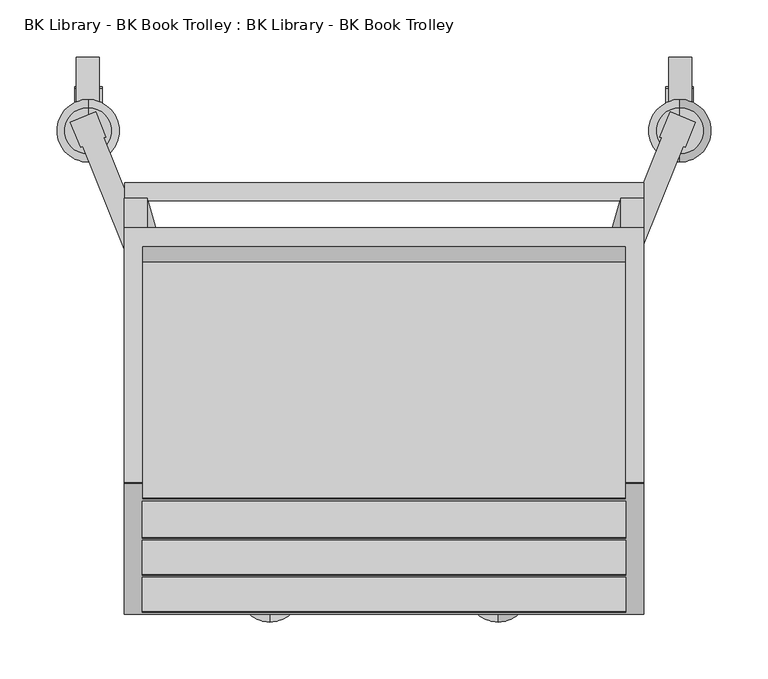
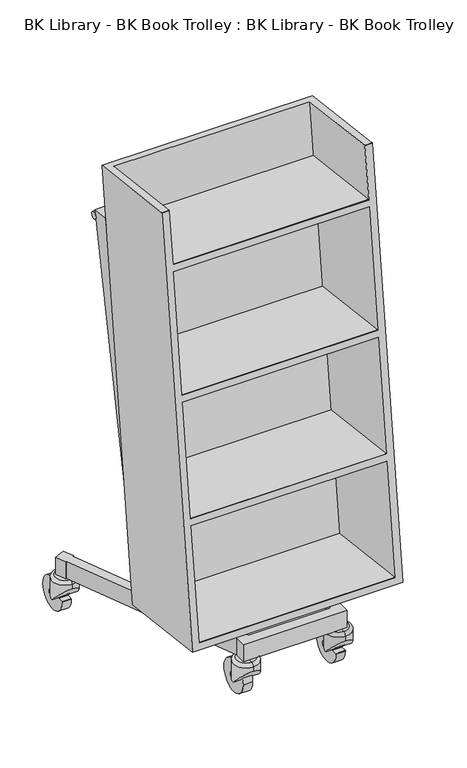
"""IFC4 building model written with IfcOpenShell, lengths in millimetres: furniture geometry, BK Library - BK Book Trolley : BK Library - BK Book Trolley."""

from ifc_helpers import new_model, si_unit, point, frame, frame_2d, origin, place, context, project, spatial, polyline, circle_curve, ellipse_curve, trimmed, segment, composite_curve, outline, extrude, source, transform, mapped, element, save
from ifc_brep_helpers import plane_surface, cylinder_surface, revolved_surface, advanced_brep


def bk_library_bk_book_trolley_bk_library_bk_book_trolley_d79a5dd0(model_context):
    return source(origin(), model_context, "Body", "SolidModel", [
        advanced_brep(
        [(260.2793004, 215.4630173, 85.9771327), (260.2793004, 160.5929467, 85.9771327), (260.2793004, 160.5929467, 76.025685), (287.7095085, 187.513349, 44.4908375), (260.2793004, 215.4630173, 44.4908375), (232.8490923, 187.513349, 44.4908375), (260.2793004, 188.027982, 44.4908375), (260.2793004, 187.513349, 44.4908375), (260.2793004, 188.027982, 92.9771327), (260.2793004, 167.5929467, 92.9771327), (260.2793004, 208.4630173, 92.9771327)],
        [
            (0, 1, circle_curve(frame((260.2793004, 188.027982, 85.9771327), z_axis=(0.0, 0.0, -1.0), x_axis=(0.0, -1.0, 0.0)), 27.4350353)),
            (1, 2),
            (2, 3, ellipse_curve(frame((260.2793004, 188.027982, 43.8879909), z_axis=(0.0, 0.7605596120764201, 0.6492681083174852), x_axis=(0.0, -0.6492681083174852, 0.7605596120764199)), 42.2553256, 27.4350353)),
            (3, 4, circle_curve(frame((260.2793004, 188.027982, 44.4908375), z_axis=(0.0, 0.0, 1.0), x_axis=(0.0, -1.0, 0.0)), 27.4350353)),
            (4, 0),
            (4, 5, circle_curve(frame((260.2793004, 188.027982, 44.4908375), z_axis=(0.0, 0.0, 1.0), x_axis=(0.0, -1.0, 0.0)), 27.4350353)),
            (5, 2, ellipse_curve(frame((260.2793004, 188.027982, 43.8879909), z_axis=(0.0, 0.7605596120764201, 0.6492681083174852), x_axis=(0.0, -0.6492681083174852, 0.7605596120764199)), 42.2553256, 27.4350353)),
            (1, 0, circle_curve(frame((260.2793004, 188.027982, 85.9771327), z_axis=(0.0, 0.0, -1.0), x_axis=(0.0, -1.0, 0.0)), 27.4350353)),
            (6, 4),
            (3, 7),
            (7, 6),
            (7, 5),
            (8, 9),
            (9, 10, circle_curve(frame((260.2793004, 188.027982, 92.9771327), z_axis=(0.0, 0.0, 1.0), x_axis=(0.0, -1.0, 0.0)), 20.4350353)),
            (10, 8),
            (10, 9, circle_curve(frame((260.2793004, 188.027982, 92.9771327), z_axis=(0.0, 0.0, 1.0), x_axis=(0.0, -1.0, 0.0)), 20.4350353)),
            (0, 10, circle_curve(frame((260.2793004, 208.4630173, 85.9771327), z_axis=(1.0, 0.0, 0.0), x_axis=(0.0, -1.0, 0.0)), 7.0)),
            (9, 1, circle_curve(frame((260.2793004, 167.5929467, 85.9771327), z_axis=(1.0, 0.0, 0.0), x_axis=(0.0, 1.0, 0.0)), 7.0)),
        ],
        [
            cylinder_surface(frame((260.2793004, 188.027982, 133.8335618), z_axis=(0.0, 0.0, 1.0), x_axis=(0.0, -1.0, 0.0)), 27.4350353),
            plane_surface(frame((260.2793004, 188.027982, 44.4908375), z_axis=(0.0, 0.0, -1.0), x_axis=(0.0, -1.0, 0.0))),
            plane_surface(frame((260.2793004, 188.027982, 92.9771327), z_axis=(0.0, 0.0, 1.0), x_axis=(0.0, -1.0, 0.0))),
            revolved_surface(trimmed(ellipse_curve(frame((260.2793004, 167.5929467, 85.9771327), z_axis=(-1.0, 0.0, 0.0), x_axis=(0.0, 1.0, 0.0)), 7.0, 7.0), [point((260.2793004, 160.5929467, 85.9771327))], [point((260.2793004, 167.5929467, 92.9771327))], True, "CARTESIAN"), (260.2793004, 188.027982, 133.8335618), (0.0, 0.0, 1.0)),
            plane_surface(frame((228.001518, 146.9121455, 92.0515219), z_axis=(0.0, -0.7605596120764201, -0.6492681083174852), x_axis=(1.0, 0.0, 0.0))),
        ],
        [
            (0, [[1, 2, 3, 4, 5]]),
            (0, [[-5, 6, 7, -2, 8]]),
            (1, [[9, -4, 10, 11]]),
            (1, [[-9, -11, 12, -6]]),
            (2, [[13, 14, 15]]),
            (2, [[-13, -15, 16]]),
            (3, [[-1, 17, -14, 18]]),
            (3, [[-8, -18, -16, -17]]),
            (4, [[-3, -7, -12, -10]]),
        ],
    ),
        extrude(outline(composite_curve([segment(trimmed(circle_curve(frame_2d((216.4774948, 36.3613825)), 36.3613825), [point((252.8388773, 36.3613825))], [point((180.1161123, 36.3613825))], False, "CARTESIAN"), True, "CONTINUOUS"), segment(trimmed(circle_curve(frame_2d((216.4774948, 36.3613825)), 36.3613825), [point((180.1161123, 36.3613825))], [point((180.1598679, 38.1446696))], False, "CARTESIAN"), True, "CONTINUOUS"), segment(polyline([(180.1598679, 38.1446696), (192.930892, 38.1446696), (182.7835547, 50.0313692)]), True, "CONTINUOUS"), segment(trimmed(circle_curve(frame_2d((216.4774948, 36.3613825)), 36.3613825), [point((182.7835547, 50.0313692))], [point((252.8388773, 36.3613825))], False, "CARTESIAN"), True, "CONTINUOUS")], self_intersect=False)), frame((250.4169584, 0.0, 0.0), z_axis=(1.0, 0.0, 0.0), x_axis=(0.0, 1.0, 0.0)), (0.0, 0.0, 1.0), 20.086419),
        extrude(outline(composite_curve([segment(trimmed(circle_curve(frame_2d((218.9212863, 35.8271855)), 7.6381626), [point((224.7724583, 40.7369017))], [point((213.0701143, 30.9174692))], False, "CARTESIAN"), True, "CONTINUOUS"), segment(polyline([(213.0701143, 30.9174692), (191.0834266, 57.1201833), (204.8484986, 64.4813522), (224.7724583, 40.7369017)]), True, "CONTINUOUS")], self_intersect=False)), frame((248.001518, 0.0, 0.0), z_axis=(1.0, 0.0, 0.0), x_axis=(0.0, 1.0, 0.0)), (0.0, 0.0, 1.0), 23.9781765),
        advanced_brep(
        [(-260.2793004, 160.5929467, 85.9771327), (-260.2793004, 215.4630173, 85.9771327), (-260.2793004, 215.4630173, 44.4908375), (-287.7095085, 187.513349, 44.4908375), (-260.2793004, 160.5929467, 76.025685), (-232.8490923, 187.513349, 44.4908375), (-260.2793004, 188.027982, 44.4908375), (-260.2793004, 187.513349, 44.4908375), (-260.2793004, 208.4630173, 92.9771327), (-260.2793004, 167.5929467, 92.9771327), (-260.2793004, 188.027982, 92.9771327)],
        [
            (0, 1, circle_curve(frame((-260.2793004, 188.027982, 85.9771327), z_axis=(0.0, 0.0, -1.0), x_axis=(0.0, -1.0, 0.0)), 27.4350353)),
            (1, 2),
            (2, 3, circle_curve(frame((-260.2793004, 188.027982, 44.4908375), z_axis=(0.0, 0.0, 1.0), x_axis=(0.0, -1.0, 0.0)), 27.4350353)),
            (3, 4, ellipse_curve(frame((-260.2793004, 188.027982, 43.8879909), z_axis=(0.0, 0.7605596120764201, 0.6492681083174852), x_axis=(0.0, 0.6492681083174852, -0.7605596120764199)), 42.2553256, 27.4350353)),
            (4, 0),
            (1, 0, circle_curve(frame((-260.2793004, 188.027982, 85.9771327), z_axis=(0.0, 0.0, -1.0), x_axis=(0.0, -1.0, 0.0)), 27.4350353)),
            (4, 5, ellipse_curve(frame((-260.2793004, 188.027982, 43.8879909), z_axis=(0.0, 0.7605596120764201, 0.6492681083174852), x_axis=(0.0, 0.6492681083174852, -0.7605596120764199)), 42.2553256, 27.4350353)),
            (5, 2, circle_curve(frame((-260.2793004, 188.027982, 44.4908375), z_axis=(0.0, 0.0, 1.0), x_axis=(0.0, -1.0, 0.0)), 27.4350353)),
            (2, 6),
            (6, 7),
            (7, 3),
            (5, 7),
            (8, 9, circle_curve(frame((-260.2793004, 188.027982, 92.9771327), z_axis=(0.0, 0.0, 1.0), x_axis=(0.0, -1.0, 0.0)), 20.4350353)),
            (9, 10),
            (10, 8),
            (9, 8, circle_curve(frame((-260.2793004, 188.027982, 92.9771327), z_axis=(0.0, 0.0, 1.0), x_axis=(0.0, -1.0, 0.0)), 20.4350353)),
            (0, 9, circle_curve(frame((-260.2793004, 167.5929467, 85.9771327), z_axis=(-1.0, 0.0, 0.0), x_axis=(0.0, 1.0, 0.0)), 7.0)),
            (8, 1, circle_curve(frame((-260.2793004, 208.4630173, 85.9771327), z_axis=(-1.0, 0.0, 0.0), x_axis=(0.0, -1.0, 0.0)), 7.0)),
        ],
        [
            cylinder_surface(frame((-260.2793004, 188.027982, 133.8335618), z_axis=(0.0, 0.0, -1.0), x_axis=(0.0, -1.0, 0.0)), 27.4350353),
            plane_surface(frame((-260.2793004, 188.027982, 44.4908375), z_axis=(0.0, 0.0, -1.0), x_axis=(0.0, -1.0, 0.0))),
            plane_surface(frame((-260.2793004, 188.027982, 92.9771327), z_axis=(0.0, 0.0, 1.0), x_axis=(0.0, -1.0, 0.0))),
            revolved_surface(trimmed(ellipse_curve(frame((-260.2793004, 167.5929467, 85.9771327), z_axis=(1.0, 0.0, 0.0), x_axis=(0.0, 1.0, 0.0)), 7.0, 7.0), [point((-260.2793004, 167.5929467, 92.9771327))], [point((-260.2793004, 160.5929467, 85.9771327))], True, "CARTESIAN"), (-260.2793004, 188.027982, 133.8335618), (0.0, 0.0, -1.0)),
            plane_surface(frame((-228.001518, 192.930892, 38.1446696), z_axis=(0.0, -0.7605596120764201, -0.6492681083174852), x_axis=(-1.0, 0.0, 0.0))),
        ],
        [
            (0, [[1, 2, 3, 4, 5]]),
            (0, [[-2, 6, -5, 7, 8]]),
            (1, [[9, 10, 11, -3]]),
            (1, [[-9, -8, 12, -10]]),
            (2, [[13, 14, 15]]),
            (2, [[-14, 16, -15]]),
            (3, [[-1, 17, -13, 18]]),
            (3, [[-6, -18, -16, -17]]),
            (4, [[-4, -11, -12, -7]]),
        ],
    ),
        extrude(outline(composite_curve([segment(trimmed(circle_curve(frame_2d((216.4774948, 36.3613825)), 36.3613825), [point((252.8388773, 36.3613825))], [point((180.1161123, 36.3613825))], False, "CARTESIAN"), True, "CONTINUOUS"), segment(trimmed(circle_curve(frame_2d((216.4774948, 36.3613825)), 36.3613825), [point((180.1161123, 36.3613825))], [point((180.1598679, 38.1446696))], False, "CARTESIAN"), True, "CONTINUOUS"), segment(polyline([(180.1598679, 38.1446696), (192.930892, 38.1446696), (182.7835547, 50.0313692)]), True, "CONTINUOUS"), segment(trimmed(circle_curve(frame_2d((216.4774948, 36.3613825)), 36.3613825), [point((182.7835547, 50.0313692))], [point((252.8388773, 36.3613825))], False, "CARTESIAN"), True, "CONTINUOUS")], self_intersect=False)), frame((-270.5033774, 0.0, 0.0), z_axis=(1.0, 0.0, 0.0), x_axis=(0.0, 1.0, 0.0)), (0.0, 0.0, 1.0), 20.086419),
        extrude(outline(composite_curve([segment(trimmed(circle_curve(frame_2d((218.9212863, 35.8271855)), 7.6381626), [point((224.7724583, 40.7369017))], [point((213.0701143, 30.9174692))], False, "CARTESIAN"), True, "CONTINUOUS"), segment(polyline([(213.0701143, 30.9174692), (191.0834266, 57.1201833), (204.8484986, 64.4813522), (224.7724583, 40.7369017)]), True, "CONTINUOUS")], self_intersect=False)), frame((-271.9796945, 0.0, 0.0), z_axis=(1.0, 0.0, 0.0), x_axis=(0.0, 1.0, 0.0)), (0.0, 0.0, 1.0), 23.9781765),
        advanced_brep(
        [(100.3897984, -189.2297451, 85.9771327), (100.3897984, -244.0998158, 85.9771327), (100.3897984, -244.0998158, 76.025685), (127.8200065, -217.1794135, 44.4908375), (100.3897984, -189.2297451, 44.4908375), (72.9595903, -217.1794135, 44.4908375), (100.3897984, -216.6647805, 44.4908375), (100.3897984, -217.1794135, 44.4908375), (100.3897984, -216.6647805, 92.9771327), (100.3897984, -237.0998158, 92.9771327), (100.3897984, -196.2297451, 92.9771327)],
        [
            (0, 1, circle_curve(frame((100.3897984, -216.6647805, 85.9771327), z_axis=(0.0, 0.0, -1.0), x_axis=(0.0, -1.0, 0.0)), 27.4350353)),
            (1, 2),
            (2, 3, ellipse_curve(frame((100.3897984, -216.6647805, 43.8879909), z_axis=(0.0, 0.76055961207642, 0.6492681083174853), x_axis=(0.0, -0.6492681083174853, 0.7605596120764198)), 42.2553256, 27.4350353)),
            (3, 4, circle_curve(frame((100.3897984, -216.6647805, 44.4908375), z_axis=(0.0, 0.0, 1.0), x_axis=(0.0, -1.0, 0.0)), 27.4350353)),
            (4, 0),
            (4, 5, circle_curve(frame((100.3897984, -216.6647805, 44.4908375), z_axis=(0.0, 0.0, 1.0), x_axis=(0.0, -1.0, 0.0)), 27.4350353)),
            (5, 2, ellipse_curve(frame((100.3897984, -216.6647805, 43.8879909), z_axis=(0.0, 0.76055961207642, 0.6492681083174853), x_axis=(0.0, -0.6492681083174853, 0.7605596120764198)), 42.2553256, 27.4350353)),
            (1, 0, circle_curve(frame((100.3897984, -216.6647805, 85.9771327), z_axis=(0.0, 0.0, -1.0), x_axis=(0.0, -1.0, 0.0)), 27.4350353)),
            (6, 4),
            (3, 7),
            (7, 6),
            (7, 5),
            (8, 9),
            (9, 10, circle_curve(frame((100.3897984, -216.6647805, 92.9771327), z_axis=(0.0, 0.0, 1.0), x_axis=(0.0, -1.0, 0.0)), 20.4350353)),
            (10, 8),
            (10, 9, circle_curve(frame((100.3897984, -216.6647805, 92.9771327), z_axis=(0.0, 0.0, 1.0), x_axis=(0.0, -1.0, 0.0)), 20.4350353)),
            (0, 10, circle_curve(frame((100.3897984, -196.2297451, 85.9771327), z_axis=(1.0, 0.0, 0.0), x_axis=(0.0, -1.0, 0.0)), 7.0)),
            (9, 1, circle_curve(frame((100.3897984, -237.0998158, 85.9771327), z_axis=(1.0, 0.0, 0.0), x_axis=(0.0, 1.0, 0.0)), 7.0)),
        ],
        [
            cylinder_surface(frame((100.3897984, -216.6647805, 133.8335618), z_axis=(0.0, 0.0, 1.0), x_axis=(0.0, -1.0, 0.0)), 27.4350353),
            plane_surface(frame((100.3897984, -216.6647805, 44.4908375), z_axis=(0.0, 0.0, -1.0), x_axis=(0.0, -1.0, 0.0))),
            plane_surface(frame((100.3897984, -216.6647805, 92.9771327), z_axis=(0.0, 0.0, 1.0), x_axis=(0.0, -1.0, 0.0))),
            revolved_surface(trimmed(ellipse_curve(frame((100.3897984, -237.0998158, 85.9771327), z_axis=(-1.0, 0.0, 0.0), x_axis=(0.0, 1.0, 0.0)), 7.0, 7.0), [point((100.3897984, -244.0998158, 85.9771327))], [point((100.3897984, -237.0998158, 92.9771327))], True, "CARTESIAN"), (100.3897984, -216.6647805, 133.8335618), (0.0, 0.0, 1.0)),
            plane_surface(frame((68.1120159, -257.780617, 92.0515219), z_axis=(0.0, -0.76055961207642, -0.6492681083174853), x_axis=(1.0, 0.0, 0.0))),
        ],
        [
            (0, [[1, 2, 3, 4, 5]]),
            (0, [[-5, 6, 7, -2, 8]]),
            (1, [[9, -4, 10, 11]]),
            (1, [[-9, -11, 12, -6]]),
            (2, [[13, 14, 15]]),
            (2, [[-13, -15, 16]]),
            (3, [[-1, 17, -14, 18]]),
            (3, [[-8, -18, -16, -17]]),
            (4, [[-3, -7, -12, -10]]),
        ],
    ),
        extrude(outline(composite_curve([segment(trimmed(circle_curve(frame_2d((-188.2152676, 36.3613825)), 36.3613825), [point((-151.8538851, 36.3613825))], [point((-224.5766502, 36.3613825))], False, "CARTESIAN"), True, "CONTINUOUS"), segment(trimmed(circle_curve(frame_2d((-188.2152676, 36.3613825)), 36.3613825), [point((-224.5766502, 36.3613825))], [point((-224.5328946, 38.1446696))], False, "CARTESIAN"), True, "CONTINUOUS"), segment(polyline([(-224.5328946, 38.1446696), (-211.7618704, 38.1446696), (-221.9092078, 50.0313692)]), True, "CONTINUOUS"), segment(trimmed(circle_curve(frame_2d((-188.2152676, 36.3613825)), 36.3613825), [point((-221.9092078, 50.0313692))], [point((-151.8538851, 36.3613825))], False, "CARTESIAN"), True, "CONTINUOUS")], self_intersect=False)), frame((90.5274563, 0.0, 0.0), z_axis=(1.0, 0.0, 0.0), x_axis=(0.0, 1.0, 0.0)), (0.0, 0.0, 1.0), 20.086419),
        extrude(outline(composite_curve([segment(trimmed(circle_curve(frame_2d((-188.2152676, 36.3613825)), 36.3613825), [point((-224.5766502, 36.3613825))], [point((-151.8538851, 36.3613825))], False, "CARTESIAN"), True, "CONTINUOUS"), segment(trimmed(circle_curve(frame_2d((-188.2152676, 36.3613825)), 36.3613825), [point((-151.8538851, 36.3613825))], [point((-224.5766502, 36.3613825))], False, "CARTESIAN"), True, "CONTINUOUS")], self_intersect=False)), frame((-110.6138753, 0.0, 0.0), z_axis=(1.0, 0.0, 0.0), x_axis=(0.0, 1.0, 0.0)), (0.0, 0.0, 1.0), 20.086419),
        extrude(outline(composite_curve([segment(trimmed(circle_curve(frame_2d((-185.7714762, 35.8271855)), 7.6381626), [point((-179.9203042, 40.7369017))], [point((-191.6226481, 30.9174692))], False, "CARTESIAN"), True, "CONTINUOUS"), segment(polyline([(-191.6226481, 30.9174692), (-213.6093359, 57.1201833), (-199.8442638, 64.4813522), (-179.9203042, 40.7369017)]), True, "CONTINUOUS")], self_intersect=False)), frame((88.1120159, 0.0, 0.0), z_axis=(1.0, 0.0, 0.0), x_axis=(0.0, 1.0, 0.0)), (0.0, 0.0, 1.0), 23.9781765),
        advanced_brep(
        [(-100.3897984, -244.0998158, 85.9771327), (-100.3897984, -189.2297451, 85.9771327), (-100.3897984, -189.2297451, 44.4908375), (-127.8200065, -217.1794135, 44.4908375), (-100.3897984, -244.0998158, 76.025685), (-72.9595903, -217.1794135, 44.4908375), (-100.3897984, -216.6647805, 44.4908375), (-100.3897984, -217.1794135, 44.4908375), (-100.3897984, -196.2297451, 92.9771327), (-100.3897984, -237.0998158, 92.9771327), (-100.3897984, -216.6647805, 92.9771327)],
        [
            (0, 1, circle_curve(frame((-100.3897984, -216.6647805, 85.9771327), z_axis=(0.0, 0.0, -1.0), x_axis=(0.0, -1.0, 0.0)), 27.4350353)),
            (1, 2),
            (2, 3, circle_curve(frame((-100.3897984, -216.6647805, 44.4908375), z_axis=(0.0, 0.0, 1.0), x_axis=(0.0, -1.0, 0.0)), 27.4350353)),
            (3, 4, ellipse_curve(frame((-100.3897984, -216.6647805, 43.8879909), z_axis=(0.0, 0.76055961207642, 0.6492681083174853), x_axis=(0.0, 0.6492681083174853, -0.7605596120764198)), 42.2553256, 27.4350353)),
            (4, 0),
            (1, 0, circle_curve(frame((-100.3897984, -216.6647805, 85.9771327), z_axis=(0.0, 0.0, -1.0), x_axis=(0.0, -1.0, 0.0)), 27.4350353)),
            (4, 5, ellipse_curve(frame((-100.3897984, -216.6647805, 43.8879909), z_axis=(0.0, 0.76055961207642, 0.6492681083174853), x_axis=(0.0, 0.6492681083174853, -0.7605596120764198)), 42.2553256, 27.4350353)),
            (5, 2, circle_curve(frame((-100.3897984, -216.6647805, 44.4908375), z_axis=(0.0, 0.0, 1.0), x_axis=(0.0, -1.0, 0.0)), 27.4350353)),
            (2, 6),
            (6, 7),
            (7, 3),
            (5, 7),
            (8, 9, circle_curve(frame((-100.3897984, -216.6647805, 92.9771327), z_axis=(0.0, 0.0, 1.0), x_axis=(0.0, -1.0, 0.0)), 20.4350353)),
            (9, 10),
            (10, 8),
            (9, 8, circle_curve(frame((-100.3897984, -216.6647805, 92.9771327), z_axis=(0.0, 0.0, 1.0), x_axis=(0.0, -1.0, 0.0)), 20.4350353)),
            (0, 9, circle_curve(frame((-100.3897984, -237.0998158, 85.9771327), z_axis=(-1.0, 0.0, 0.0), x_axis=(0.0, 1.0, 0.0)), 7.0)),
            (8, 1, circle_curve(frame((-100.3897984, -196.2297451, 85.9771327), z_axis=(-1.0, 0.0, 0.0), x_axis=(0.0, -1.0, 0.0)), 7.0)),
        ],
        [
            cylinder_surface(frame((-100.3897984, -216.6647805, 133.8335618), z_axis=(0.0, 0.0, -1.0), x_axis=(0.0, -1.0, 0.0)), 27.4350353),
            plane_surface(frame((-100.3897984, -216.6647805, 44.4908375), z_axis=(0.0, 0.0, -1.0), x_axis=(0.0, -1.0, 0.0))),
            plane_surface(frame((-100.3897984, -216.6647805, 92.9771327), z_axis=(0.0, 0.0, 1.0), x_axis=(0.0, -1.0, 0.0))),
            revolved_surface(trimmed(ellipse_curve(frame((-100.3897984, -237.0998158, 85.9771327), z_axis=(1.0, 0.0, 0.0), x_axis=(0.0, 1.0, 0.0)), 7.0, 7.0), [point((-100.3897984, -237.0998158, 92.9771327))], [point((-100.3897984, -244.0998158, 85.9771327))], True, "CARTESIAN"), (-100.3897984, -216.6647805, 133.8335618), (0.0, 0.0, -1.0)),
            plane_surface(frame((-68.1120159, -211.7618704, 38.1446696), z_axis=(0.0, -0.76055961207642, -0.6492681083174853), x_axis=(-1.0, 0.0, 0.0))),
        ],
        [
            (0, [[1, 2, 3, 4, 5]]),
            (0, [[-2, 6, -5, 7, 8]]),
            (1, [[9, 10, 11, -3]]),
            (1, [[-9, -8, 12, -10]]),
            (2, [[13, 14, 15]]),
            (2, [[-14, 16, -15]]),
            (3, [[-1, 17, -13, 18]]),
            (3, [[-6, -18, -16, -17]]),
            (4, [[-4, -11, -12, -7]]),
        ],
    ),
        extrude(outline(composite_curve([segment(trimmed(circle_curve(frame_2d((-185.7714762, 35.8271855)), 7.6381626), [point((-179.9203042, 40.7369017))], [point((-191.6226481, 30.9174692))], False, "CARTESIAN"), True, "CONTINUOUS"), segment(polyline([(-191.6226481, 30.9174692), (-213.6093359, 57.1201833), (-199.8442638, 64.4813522), (-179.9203042, 40.7369017)]), True, "CONTINUOUS")], self_intersect=False)), frame((-112.0901924, 0.0, 0.0), z_axis=(1.0, 0.0, 0.0), x_axis=(0.0, 1.0, 0.0)), (0.0, 0.0, 1.0), 23.9781765),
        advanced_brep(
        [(-228.4589427, -121.4559635, 1098.3397972), (-228.4589427, 102.4644681, 1070.8458253), (-228.4589427, -12.7356493, 133.1961951), (-228.4589427, -237.1361273, 160.7491093), (-228.4589427, -122.0737285, 1097.8571462), (-212.4590291, -204.7188743, 424.7664485), (-212.4590291, -235.2593463, 176.0343782), (-212.4590291, -234.590697, 176.5567842), (-212.4590291, -26.7515376, 151.0373443), (-212.4590291, 3.715799, 399.1738886), (-212.4590291, -172.3016282, 688.7837311), (-212.4590291, -202.8421019, 440.0516473), (-212.4590291, -202.1734526, 440.5740534), (-212.4590291, 5.6657069, 415.0546135), (-212.4590291, 36.1330451, 663.1911713), (-212.4590291, -138.0934504, 967.3869814), (-212.4590291, -170.4248535, 704.068948), (-212.4590291, -169.7562042, 704.5913541), (-212.4590291, 38.0829552, 679.0719142), (-212.4590291, 70.3412229, 941.7944215), (-212.4590291, -121.4559635, 1098.3397972), (-212.4590291, -122.0737285, 1097.8571462), (-212.4590291, -136.2927596, 982.0525854), (-212.4590291, -134.9284584, 983.1184943), (-212.4590291, 72.2911285, 957.6751284), (-212.4590291, 86.4285018, 1072.8147944), (228.4589427, -237.1361273, 160.7491093), (228.4589427, -122.0764748, 1097.83478), (212.4590291, -122.0764748, 1097.83478), (212.4590291, -136.292741, 982.0525831), (212.4590291, -138.0934504, 967.3869814), (212.4590291, -170.4248397, 704.0689463), (212.4590291, -172.3016282, 688.7837311), (212.4590291, -202.8420881, 440.0516456), (212.4590291, -204.7188743, 424.7664485), (212.4590291, -235.2593325, 176.0343765), (228.4589427, -12.7356493, 133.1961951), (228.4589427, 102.4644681, 1070.8458253), (212.4590291, 86.4285018, 1072.8147944), (212.4590291, -121.4335973, 1098.3370509), (228.4589427, -121.4335973, 1098.3370509), (212.4590291, 72.2911285, 957.6751284), (212.4590291, -134.9284584, 983.1184943), (212.4590291, 70.3412229, 941.7944215), (212.4590291, 38.0829552, 679.0719142), (212.4590291, -169.7562042, 704.5913541), (212.4590291, 36.1330451, 663.1911713), (212.4590291, 5.6657069, 415.0546135), (212.4590291, -202.1734526, 440.5740534), (212.4590291, 3.715799, 399.1738886), (212.4590291, -26.7515376, 151.0373443), (212.4590291, -234.590697, 176.5567842)],
        [
            (0, 1),
            (1, 2),
            (2, 3),
            (3, 4),
            (4, 0, circle_curve(frame((-228.4589427, -121.5235205, 1097.7895892), z_axis=(-1.0, 0.0, 0.0), x_axis=(0.0, -1.0, 0.0)), 0.55434)),
            (5, 6),
            (6, 7, circle_curve(frame((-212.4590291, -234.6638186, 175.9612566), z_axis=(-1.0, 0.0, 0.0), x_axis=(0.0, -1.0, 0.0)), 0.6)),
            (7, 8),
            (8, 9),
            (9, 5),
            (10, 11),
            (11, 12, circle_curve(frame((-212.4590291, -202.2465742, 439.9785257), z_axis=(-1.0, 0.0, 0.0), x_axis=(0.0, -1.0, 0.0)), 0.6)),
            (12, 13),
            (13, 14),
            (14, 10),
            (15, 16),
            (16, 17, circle_curve(frame((-212.4590291, -169.8293259, 703.9958264), z_axis=(-1.0, 0.0, 0.0), x_axis=(0.0, -1.0, 0.0)), 0.6)),
            (17, 18),
            (18, 19),
            (19, 15),
            (20, 21, circle_curve(frame((-212.4590291, -121.5235205, 1097.7895892), z_axis=(1.0, 0.0, 0.0), x_axis=(0.0, -1.0, 0.0)), 0.55434)),
            (21, 22),
            (22, 23, circle_curve(frame((-212.4590291, -135.0776545, 981.9033893), z_axis=(-1.0, 0.0, 0.0), x_axis=(0.0, -1.0, 0.0)), 1.2242303)),
            (23, 24),
            (24, 25),
            (25, 20),
            (3, 26),
            (26, 27),
            (27, 28),
            (28, 29),
            (29, 22),
            (21, 4),
            (15, 30),
            (30, 31),
            (31, 16),
            (10, 32),
            (32, 33),
            (33, 11),
            (5, 34),
            (34, 35),
            (35, 6),
            (2, 36),
            (36, 26),
            (1, 37),
            (37, 36),
            (0, 20),
            (25, 38),
            (38, 39),
            (39, 40),
            (40, 37),
            (24, 41),
            (41, 38),
            (23, 42),
            (42, 41),
            (19, 43),
            (43, 30),
            (18, 44),
            (44, 43),
            (17, 45),
            (45, 44),
            (14, 46),
            (46, 32),
            (13, 47),
            (47, 46),
            (12, 48),
            (48, 47),
            (9, 49),
            (49, 34),
            (8, 50),
            (50, 49),
            (7, 51),
            (51, 50),
            (40, 27, circle_curve(frame((228.4589427, -121.5039006, 1097.7644768), z_axis=(1.0, 0.0, 0.0), x_axis=(0.0, -1.0, 0.0)), 0.5768741)),
            (45, 31, circle_curve(frame((212.4590291, -169.8293259, 703.9958264), z_axis=(1.0, 0.0, 0.0), x_axis=(0.0, -1.0, 0.0)), 0.6)),
            (48, 33, circle_curve(frame((212.4590291, -202.2465742, 439.9785257), z_axis=(1.0, 0.0, 0.0), x_axis=(0.0, -1.0, 0.0)), 0.6)),
            (51, 35, circle_curve(frame((212.4590291, -234.6638186, 175.9612566), z_axis=(1.0, 0.0, 0.0), x_axis=(0.0, -1.0, 0.0)), 0.6)),
            (28, 39, circle_curve(frame((212.4590291, -121.5039006, 1097.7644768), z_axis=(-1.0, 0.0, 0.0), x_axis=(0.0, -1.0, 0.0)), 0.5768741)),
            (42, 29, circle_curve(frame((212.4590291, -135.0776545, 981.9033893), z_axis=(1.0, 0.0, 0.0), x_axis=(0.0, -1.0, 0.0)), 1.2242303)),
        ],
        [
            plane_surface(frame((-228.4589427, 102.309254, 1070.8648832), z_axis=(-1.0, 0.0, 0.0), x_axis=(0.0, 0.9925461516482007, -0.12186934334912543))),
            plane_surface(frame((-212.4590291, 102.309254, 1070.8648832), z_axis=(1.0, 0.0, 0.0), x_axis=(0.0, -0.9925461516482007, 0.12186934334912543))),
            plane_surface(frame((-228.4589427, -237.1361273, 160.7491093), z_axis=(0.0, -0.9925461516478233, 0.12186934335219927), x_axis=(1.0, 0.0, 0.0))),
            plane_surface(frame((-228.4589427, -12.7356493, 133.1961951), z_axis=(0.0, -0.12186934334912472, -0.9925461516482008), x_axis=(1.0, 0.0, 0.0))),
            plane_surface(frame((-228.4589427, 102.4644681, 1070.8458253), z_axis=(0.0, 0.9925370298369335, -0.12194361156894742), x_axis=(1.0, 0.0, 0.0))),
            plane_surface(frame((-228.4589427, -121.4559635, 1098.3397972), z_axis=(0.0, 0.12186934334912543, 0.9925461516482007), x_axis=(1.0, 0.0, 0.0))),
            plane_surface(frame((212.4590291, 86.4285088, 1072.8148509), z_axis=(0.0, -0.9925461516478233, 0.12186934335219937), x_axis=(-1.0, 0.0, 0.0))),
            plane_surface(frame((212.4590291, 72.2911285, 957.6751284), z_axis=(0.0, 0.12186934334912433, 0.9925461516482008), x_axis=(-1.0, 0.0, 0.0))),
            plane_surface(frame((212.4590291, -138.093469, 967.3869837), z_axis=(0.0, -0.12186934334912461, -0.9925461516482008), x_axis=(-1.0, 0.0, 0.0))),
            plane_surface(frame((212.4590291, 70.3412229, 941.7944215), z_axis=(0.0, -0.9925461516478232, 0.12186934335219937), x_axis=(-1.0, 0.0, 0.0))),
            plane_surface(frame((212.4590291, 38.0829552, 679.0719142), z_axis=(0.0, 0.12186934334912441, 0.9925461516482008), x_axis=(-1.0, 0.0, 0.0))),
            plane_surface(frame((212.4590291, -172.301642, 688.7837328), z_axis=(0.0, -0.12186934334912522, -0.9925461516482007), x_axis=(-1.0, 0.0, 0.0))),
            plane_surface(frame((212.4590291, 36.1330451, 663.1911713), z_axis=(0.0, -0.9925461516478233, 0.12186934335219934), x_axis=(-1.0, 0.0, 0.0))),
            plane_surface(frame((212.4590291, 5.6657069, 415.0546135), z_axis=(0.0, 0.12186934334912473, 0.9925461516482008), x_axis=(-1.0, 0.0, 0.0))),
            plane_surface(frame((212.4590291, -204.7188881, 424.7664502), z_axis=(0.0, -0.12186934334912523, -0.9925461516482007), x_axis=(-1.0, 0.0, 0.0))),
            plane_surface(frame((212.4590291, 3.715799, 399.1738886), z_axis=(0.0, -0.9925461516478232, 0.12186934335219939), x_axis=(-1.0, 0.0, 0.0))),
            plane_surface(frame((212.4590291, -26.7515376, 151.0373443), z_axis=(0.0, 0.12186934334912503, 0.9925461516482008), x_axis=(-1.0, 0.0, 0.0))),
            plane_surface(frame((228.4589427, -122.0807747, 1097.7644768), z_axis=(1.0, 0.0, 0.0), x_axis=(0.0, 0.0, -1.0))),
            plane_surface(frame((212.4590291, -122.0807747, 1097.7644768), z_axis=(-1.0, 0.0, 0.0), x_axis=(0.0, 0.0, 1.0))),
            cylinder_surface(frame((-212.4632083, -135.0776545, 981.9033893), z_axis=(1.0, 0.0, 0.0), x_axis=(0.0, -1.0, 0.0)), 1.2242303),
            cylinder_surface(frame((-212.4632083, -169.8293259, 703.9958264), z_axis=(1.0, 0.0, 0.0), x_axis=(0.0, -1.0, 0.0)), 0.6),
            cylinder_surface(frame((-212.4632083, -202.2465742, 439.9785257), z_axis=(1.0, 0.0, 0.0), x_axis=(0.0, -1.0, 0.0)), 0.6),
            cylinder_surface(frame((-212.4632083, -234.6638186, 175.9612566), z_axis=(1.0, 0.0, 0.0), x_axis=(0.0, -1.0, 0.0)), 0.6),
            cylinder_surface(frame((-212.4590291, -121.5235205, 1097.7895892), z_axis=(-1.0, 0.0, 0.0), x_axis=(0.0, -1.0, 0.0)), 0.55434),
            cylinder_surface(frame((212.4590291, -121.5039006, 1097.7644768), z_axis=(1.0, 0.0, 0.0), x_axis=(0.0, -1.0, 0.0)), 0.5768741),
        ],
        [
            (0, [[1, 2, 3, 4, 5]]),
            (1, [[6, 7, 8, 9, 10]]),
            (1, [[11, 12, 13, 14, 15]]),
            (1, [[16, 17, 18, 19, 20]]),
            (1, [[21, 22, 23, 24, 25, 26]]),
            (2, [[-4, 27, 28, 29, 30, 31, -22, 32], [33, 34, 35, -16], [36, 37, 38, -11], [39, 40, 41, -6]]),
            (3, [[-27, -3, 42, 43]]),
            (4, [[-42, -2, 44, 45]]),
            (5, [[-44, -1, 46, -26, 47, 48, 49, 50]]),
            (6, [[-47, -25, 51, 52]]),
            (7, [[-51, -24, 53, 54]]),
            (8, [[-33, -20, 55, 56]]),
            (9, [[-55, -19, 57, 58]]),
            (10, [[-57, -18, 59, 60]]),
            (11, [[-36, -15, 61, 62]]),
            (12, [[-61, -14, 63, 64]]),
            (13, [[-63, -13, 65, 66]]),
            (14, [[-39, -10, 67, 68]]),
            (15, [[-67, -9, 69, 70]]),
            (16, [[-69, -8, 71, 72]]),
            (17, [[73, -28, -43, -45, -50]]),
            (18, [[-34, -56, -58, -60, 74]]),
            (18, [[-37, -62, -64, -66, 75]]),
            (18, [[-40, -68, -70, -72, 76]]),
            (18, [[77, -48, -52, -54, 78, -30]]),
            (19, [[-53, -23, -31, -78]]),
            (20, [[-59, -17, -35, -74]]),
            (21, [[-65, -12, -38, -75]]),
            (22, [[-71, -7, -41, -76]]),
            (23, [[-5, -32, -21, -46]]),
            (24, [[-73, -49, -77, -29]]),
        ],
    ),
        extrude(outline(composite_curve([segment(trimmed(circle_curve(frame_2d((134.2763375, 937.1979616)), 7.9692443), [point((142.2455818, 937.1979616))], [point((126.3070932, 937.1979616))], False, "CARTESIAN"), True, "CONTINUOUS"), segment(trimmed(circle_curve(frame_2d((134.2763375, 937.1979616)), 7.9692443), [point((126.3070932, 937.1979616))], [point((142.2455818, 937.1979616))], False, "CARTESIAN"), True, "CONTINUOUS")], self_intersect=False)), frame((-228.0810856, 0.0, 0.0), z_axis=(1.0, 0.0, 0.0), x_axis=(0.0, 1.0, 0.0)), (0.0, 0.0, 1.0), 456.3502382),
        extrude(outline(polyline([(-829.0926374, 0.0), (-0.9396224, 0.0), (3.9717576, -39.999966), (-829.0926357, -40.0000001), (-829.0926374, 0.0)])), frame((-199.3558567, 27.3369664, 131.3425218), z_axis=(0.9993817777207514, 0.0, 0.03515767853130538), x_axis=(0.03489561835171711, -0.12186938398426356, -0.9919325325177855)), (0.0, 0.0, 1.0), 20.0505439),
        extrude(outline(polyline([(-40.0003825, 0.0), (-0.0003824, 0.0), (-0.0003823, -833.0643933), (-40.0003486, -828.153015), (-40.0003825, 0.0)])), frame((228.4589443, 88.6757497, 958.6182879), z_axis=(-0.9993817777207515, 0.0, 0.03515767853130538), x_axis=(0.004284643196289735, -0.992546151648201, 0.12179400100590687)), (0.0, 0.0, 1.0), 20.0505439),
        extrude(outline(polyline([(-89.3123404, -207.3104535), (87.299819, -207.3104535), (244.4653629, 181.687918), (242.6109947, 182.4371314), (251.6015529, 204.6895438), (273.8539653, 195.6989856), (264.8634071, 173.4465732), (263.0090394, 174.1957864), (109.6785604, -205.3104665), (111.0359602, -205.3104665), (111.0359602, -229.3104551), (-113.0484816, -229.3104551), (-113.0484816, -205.3104665), (-111.6910817, -205.3104665), (-265.0215607, 174.1957864), (-266.8759284, 173.4465732), (-275.8664867, 195.6989856), (-253.6140742, 204.6895438), (-244.623516, 182.4371314), (-246.4778842, 181.687918), (-89.3123404, -207.3104535)])), frame((0.0, 0.0, 92.9771321), z_axis=(0.0, 0.0, 1.0), x_axis=(1.0, 0.0, 0.0)), (0.0, 0.0, 1.0), 40.0000021),
    ])


if __name__ == "__main__":
    model = new_model("IFC4")
    model_context = context("Model", 3, world=origin())
    ifc_project = project(units=[si_unit("LENGTHUNIT", "METRE", prefix="MILLI")], contexts=[model_context])
    site = spatial("IfcSite", under=ifc_project)
    building = spatial("IfcBuilding", under=site)
    placement = place(None, origin())
    bk_library_bk_book_trolley_bk_library_bk_book_trolley_shape = bk_library_bk_book_trolley_bk_library_bk_book_trolley_d79a5dd0(model_context)
    element("IfcFurniture", 1, ObjectType="BK Library - BK Book Trolley : BK Library - BK Book Trolley", at=placement, inside=building, context=model_context, shape_type="MappedRepresentation", body=[
        mapped(bk_library_bk_book_trolley_bk_library_bk_book_trolley_shape, transform((0.0, 0.0, 0.0), x_axis=(1.0, 0.0, 0.0), y_axis=(0.0, 1.0, 0.0), z_axis=(0.0, 0.0, 1.0))),
    ])
    save(model, "model.ifc")
